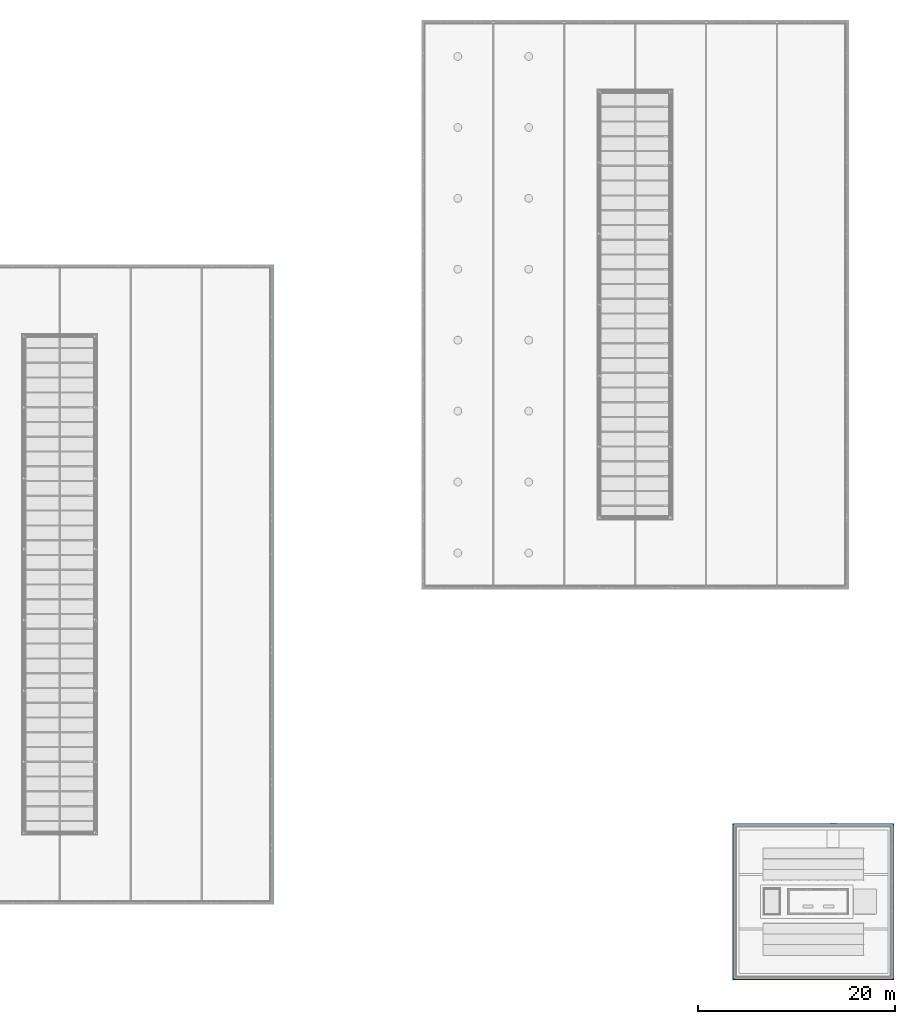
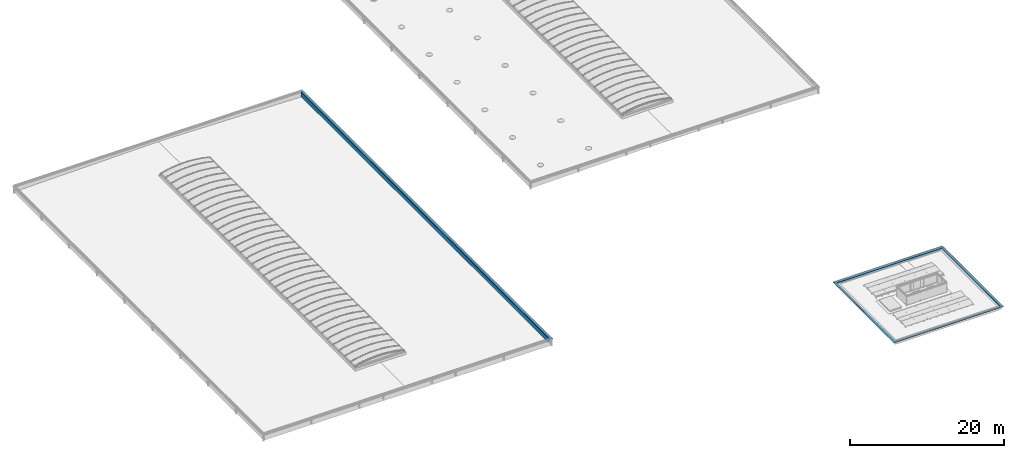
# One storey, part 50 of 81: 5 beams.
"""IFC2X3 building model written with IfcOpenShell, lengths in millimetres."""

import ifcopenshell
import ifcopenshell.guid

model = None  # the IFC model being written
_history = None  # IfcOwnerHistory: only IFC2X3 demands one
_inside = {}  # id of a spatial element -> (the spatial element, [elements in it])
_under = {}  # id of a project, library or spatial element -> (it, [spatial elements below it])
_declared = {}  # id of a project -> (the project, [libraries it declares])
_typed = {}  # id of a type object -> (the type object, [elements of that type])
_made_of = {}  # id of a material, layer set ... -> (it, [elements and type objects made of it])


def new_model(schema):
    """Start an empty IFC model of exactly this schema.

    Asked for "IFC4X3", IfcOpenShell would pick the latest addendum, in which some entities
    have other attributes; the version numbers below select the first issue.
    IFC2X3 requires an IfcOwnerHistory on every rooted entity: one is made here for all.
    """
    global model, _history
    if schema == "IFC4X3":
        model = ifcopenshell.file(schema_version=(4, 3, 0, 0))
    else:
        model = ifcopenshell.file(schema=schema)
    _inside.clear()
    _under.clear()
    _declared.clear()
    _typed.clear()
    _made_of.clear()
    _history = None
    if model.schema == "IFC2X3":
        org = make("IfcOrganization", Name="unknown")
        user = make(
            "IfcPersonAndOrganization",
            ThePerson=make("IfcPerson", FamilyName="unknown"),
            TheOrganization=org,
        )
        app = make(
            "IfcApplication",
            ApplicationDeveloper=org,
            Version="unknown",
            ApplicationFullName="unknown",
            ApplicationIdentifier="unknown",
        )
        _history = make(
            "IfcOwnerHistory",
            OwningUser=user,
            OwningApplication=app,
            ChangeAction="ADDED",
            CreationDate=0,
        )
    return model


def make(cls, **values):
    """One entity of the class cls with the attributes given. An attribute that is None is left unset."""
    return model.create_entity(
        cls, **{name: value for name, value in values.items() if value is not None}
    )


def entity(cls, *values):
    """Any entity or typed value of the class cls, its attributes in the order of the schema. None: left unset."""
    e = model.create_entity(cls)
    for i, value in enumerate(values):
        if value is not None:
            e[i] = value
    return e


def rooted(cls, **values):
    """An entity with a GlobalId (a new one), such as an element, a storey or a relation."""
    return make(cls, GlobalId=ifcopenshell.guid.new(), OwnerHistory=_history, **values)


def si_unit(unit_type, name, prefix=None):
    """IfcSIUnit, for example si_unit("LENGTHUNIT", "METRE", prefix="MILLI")."""
    return make("IfcSIUnit", UnitType=unit_type, Prefix=prefix, Name=name)


def converted_unit(unit_type, name, factor, base, dimensions=None, offset=None):
    """IfcConversionBasedUnit, such as the inch: factor (a typed value) times the base unit."""
    return make(
        "IfcConversionBasedUnit"
        if offset is None
        else "IfcConversionBasedUnitWithOffset",
        ConversionOffset=offset,
        Dimensions=None
        if dimensions is None
        else entity("IfcDimensionalExponents", *dimensions),
        UnitType=unit_type,
        Name=name,
        ConversionFactor=make(
            "IfcMeasureWithUnit", ValueComponent=factor, UnitComponent=base
        ),
    )


def derived_unit(unit_type, elements):
    """IfcDerivedUnit: a product of units, each with its exponent."""
    return make(
        "IfcDerivedUnit",
        Elements=[
            make("IfcDerivedUnitElement", Unit=unit, Exponent=power)
            for unit, power in elements
        ],
        UnitType=unit_type,
    )


def money_unit(currency):
    """IfcMonetaryUnit."""
    return make("IfcMonetaryUnit", Currency=currency)


def assignment(units):
    """IfcUnitAssignment: the units of a project."""
    return None if units is None else make("IfcUnitAssignment", Units=units)


def point(xyz):
    """IfcCartesianPoint."""
    return None if xyz is None else make("IfcCartesianPoint", Coordinates=xyz)


def direction(xyz):
    """IfcDirection."""
    return None if xyz is None else make("IfcDirection", DirectionRatios=xyz)


def frame(location, z_axis=None, x_axis=None):
    """IfcAxis2Placement3D, a coordinate frame: its origin and axes. An axis left out is left unset."""
    return make(
        "IfcAxis2Placement3D",
        Location=point(location),
        Axis=direction(z_axis),
        RefDirection=direction(x_axis),
    )


def origin_with_axes():
    """The frame at (0, 0, 0) with the z axis (0, 0, 1) and the x axis (1, 0, 0) written out."""
    return frame((0.0, 0.0, 0.0), z_axis=(0.0, 0.0, 1.0), x_axis=(1.0, 0.0, 0.0))


def place(relative_to, where):
    """IfcLocalPlacement: puts the frame where relative to a parent placement (None: the world)."""
    return make(
        "IfcLocalPlacement", PlacementRelTo=relative_to, RelativePlacement=where
    )


def context(
    kind, dimensions, precision=None, world=None, true_north=None, identifier=None
):
    """IfcGeometricRepresentationContext, for example the 3D "Model" context."""
    return make(
        "IfcGeometricRepresentationContext",
        ContextIdentifier=identifier,
        ContextType=kind,
        CoordinateSpaceDimension=dimensions,
        Precision=precision,
        WorldCoordinateSystem=world,
        TrueNorth=true_north,
    )


def subcontext(parent, identifier, kind, view, scale=None):
    """IfcGeometricRepresentationSubContext, for example "Body" below "Model"."""
    return make(
        "IfcGeometricRepresentationSubContext",
        ContextIdentifier=identifier,
        ContextType=kind,
        ParentContext=parent,
        TargetScale=scale,
        TargetView=view,
    )


def project(units=None, contexts=None):
    """IfcProject with its units and contexts."""
    return rooted(
        "IfcProject",
        Name="project",
        RepresentationContexts=contexts,
        UnitsInContext=assignment(units),
    )


def spatial(cls, under=None, at=None, **own):
    """A site, building, storey or space (cls), placed at a placement, below another one or the project."""
    s = rooted(cls, ObjectPlacement=at, **own)
    if under is not None:
        _under.setdefault(under.id(), (under, []))[1].append(s)
    return s


def faces_of(points, faces, orient=None, outer=None):
    """IfcFace entities. A face is a list of loops; a loop is a list of indices into points, from 0.

    orient and outer hold one flag for each loop. By default every Orientation is true, the
    first loop of a face is its IfcFaceOuterBound and the others are IfcFaceBound.
    """
    made = []
    for i, loops in enumerate(faces):
        bounds = []
        for j, loop in enumerate(loops):
            is_outer = j == 0 if outer is None else outer[i][j]
            bounds.append(
                make(
                    "IfcFaceOuterBound" if is_outer else "IfcFaceBound",
                    Bound=make("IfcPolyLoop", Polygon=[points[k] for k in loop]),
                    Orientation=True if orient is None else orient[i][j],
                )
            )
        made.append(make("IfcFace", Bounds=bounds))
    return made


def faceted_brep(points, faces, orient=None, outer=None, voids=None):
    """IfcFacetedBrep: a solid bounded by flat faces; with voids (closed shells), ...WithVoids."""
    shared = [point(p) for p in points]
    hull = make("IfcClosedShell", CfsFaces=faces_of(shared, faces, orient, outer))
    if voids is None:
        return make("IfcFacetedBrep", Outer=hull)
    return make(
        "IfcFacetedBrepWithVoids",
        Outer=hull,
        Voids=[
            make(cls, CfsFaces=faces_of(shared, fs, o, b)) for cls, fs, o, b in voids
        ],
    )


def shape(context_of_items, identifier, shape_type, items):
    """IfcShapeRepresentation: the items that make up one representation, for example the "Body"."""
    return make(
        "IfcShapeRepresentation",
        ContextOfItems=context_of_items,
        RepresentationIdentifier=identifier,
        RepresentationType=shape_type,
        Items=items,
    )


def material(Name=None, Category=None):
    """IfcMaterial."""
    return make("IfcMaterial", Name=Name, Category=Category)


def material_list(materials):
    """IfcMaterialList."""
    return make("IfcMaterialList", Materials=materials)


def made_of(thing, what):
    """Note that an element or type object is made of a material, layer set ...; save() writes the relation."""
    if what is not None:
        _made_of.setdefault(what.id(), (what, []))[1].append(thing)
    return thing


def type_object(cls, material=None, **own):
    """A type object (cls), such as IfcWallType, which elements share."""
    return made_of(rooted(cls, **own), material)


def element(
    cls,
    number,
    at=None,
    inside=None,
    cuts=None,
    type_object=None,
    material=None,
    context=None,
    identifier="Body",
    shape_type=None,
    held_by="IfcProductDefinitionShape",
    body=None,
    shapes=None,
    **own,
):
    """One element of the class cls, such as IfcWall. Its Tag is "e" and its number.

    at: its placement. inside: the storey or other place that contains it. cuts: it is an
    opening in that element (IfcRelVoidsElement). A single representation is given by context,
    identifier, shape_type and body (its items); several are given by shapes. held_by: the class
    of the entity that holds the representations. save() writes the other relations.
    """
    e = rooted(cls, Tag="e%d" % number, ObjectPlacement=at, **own)
    if body is not None:
        shapes = [shape(context, identifier, shape_type, body)]
    if shapes is not None:
        e.Representation = make(held_by, Representations=shapes)
    if inside is not None:
        _inside.setdefault(inside.id(), (inside, []))[1].append(e)
    if cuts is not None:
        rooted(
            "IfcRelVoidsElement", RelatingBuildingElement=cuts, RelatedOpeningElement=e
        )
    if type_object is not None:
        _typed.setdefault(type_object.id(), (type_object, []))[1].append(e)
    return made_of(e, material)


def aggregate(whole, parts):
    """IfcRelAggregates: a whole, such as a stair, and the parts it consists of."""
    return rooted("IfcRelAggregates", RelatingObject=whole, RelatedObjects=parts)


def save(model, path):
    """Write the relations noted so far, then the file.

    IfcRelAggregates (storeys below a building ...), IfcRelContainedInSpatialStructure (elements
    in a storey), IfcRelDefinesByType, IfcRelAssociatesMaterial and IfcRelDeclares: one each for
    every whole, place, type object, material and project.
    """
    for whole, parts in _under.values():
        aggregate(whole, parts)
    for where, things in _inside.values():
        rooted(
            "IfcRelContainedInSpatialStructure",
            RelatedElements=things,
            RelatingStructure=where,
        )
    for kind, things in _typed.values():
        rooted("IfcRelDefinesByType", RelatedObjects=things, RelatingType=kind)
    for what, things in _made_of.values():
        rooted("IfcRelAssociatesMaterial", RelatedObjects=things, RelatingMaterial=what)
    for by, libraries in _declared.values():
        rooted("IfcRelDeclares", RelatingContext=by, RelatedDefinitions=libraries)
    model.write(path)


model = new_model("IFC2X3")

# Units and contexts
model_context = context("Model", 3, precision=0.01, world=origin_with_axes(), true_north=direction((0.0, 1.0)))
body_context = subcontext(model_context, "Body", "Model", "MODEL_VIEW")
ifc_project = project(units=[si_unit("LENGTHUNIT", "METRE", prefix="MILLI"), si_unit("AREAUNIT", "SQUARE_METRE"), si_unit("VOLUMEUNIT", "CUBIC_METRE"), converted_unit("PLANEANGLEUNIT", "DEGREE", entity("IfcPlaneAngleMeasure", 0.0174532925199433), si_unit("PLANEANGLEUNIT", "RADIAN"), dimensions=[0, 0, 0, 0, 0, 0, 0]), money_unit("EUR"), converted_unit("TIMEUNIT", "Year", entity("IfcTimeMeasure", 31557600.0), si_unit("TIMEUNIT", "SECOND"), dimensions=[0, 0, 1, 0, 0, 0, 0]), si_unit("MASSUNIT", "GRAM", prefix="KILO"), si_unit("THERMODYNAMICTEMPERATUREUNIT", "DEGREE_CELSIUS"), si_unit("LUMINOUSINTENSITYUNIT", "LUMEN"), si_unit("ENERGYUNIT", "JOULE", prefix="MEGA"), derived_unit("THERMALCONDUCTANCEUNIT", [(si_unit("POWERUNIT", "WATT"), 1), (si_unit("LENGTHUNIT", "METRE"), -1), (si_unit("THERMODYNAMICTEMPERATUREUNIT", "KELVIN"), -1)]), derived_unit("SPECIFICHEATCAPACITYUNIT", [(si_unit("ENERGYUNIT", "JOULE"), 1), (si_unit("MASSUNIT", "GRAM", prefix="KILO"), -1), (si_unit("THERMODYNAMICTEMPERATUREUNIT", "KELVIN"), -1)]), derived_unit("MASSDENSITYUNIT", [(si_unit("MASSUNIT", "GRAM", prefix="KILO"), 1), (si_unit("VOLUMEUNIT", "CUBIC_METRE"), -1)])], contexts=[model_context])

# Site, building, storey
site_placement = place(None, origin_with_axes())
site = spatial("IfcSite", under=ifc_project, at=site_placement, Name="Site", CompositionType="ELEMENT")
building_placement = place(site_placement, origin_with_axes())
building = spatial("IfcBuilding", under=site, at=building_placement, Name="Naam gebouw", CompositionType="ELEMENT")
storey_placement = place(building_placement, frame((0.0, 0.0, 15320.0), z_axis=(0.0, 0.0, 1.0), x_axis=(1.0, 0.0, 0.0)))
storey = spatial("IfcBuildingStorey", under=building, at=storey_placement, Name="01 dak", CompositionType="ELEMENT", Elevation=15320.0)

# Beams
ifc_material_1 = material(Name="Membraan - dampdicht")
ifc_material_2 = material(Name="Metaal - Titanium zink")
ifc_material_list_1 = material_list([ifc_material_1, ifc_material_2])
beam_type_1 = type_object("IfcBeamType", Name="Muurafdekker_210 394 x 841", PredefinedType="BEAM")
beam_1_placement = place(storey_placement, frame((68500.0, 94800.00000000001, 645.0108944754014), z_axis=(0.0, 0.0, 1.0), x_axis=(-1.0, 0.0, 0.0)))
element("IfcBeam", 1, at=beam_1_placement, inside=storey, type_object=beam_type_1, material=ifc_material_list_1, Name="dakkap", ObjectType="BEAM", context=body_context, shape_type="Brep", body=[
    faceted_brep([(252.0000000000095, 64548.0, 7.21089447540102), (252.0000000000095, 64548.0, -806.4411900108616), (252.0000000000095, 252.0000000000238, -806.4411900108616), (252.0000000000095, 252.0000000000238, 7.21089447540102), (254.0000000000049, 64546.00000000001, 7.21089447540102), (254.0000000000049, 64546.00000000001, -806.4411900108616), (254.0000000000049, 254.0000000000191, -806.4411900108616), (254.0000000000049, 254.0000000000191, 7.21089447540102)], [[[0, 1, 2, 3]], [[0, 4, 5, 1]], [[1, 5, 6, 2]], [[3, 2, 6, 7]], [[4, 0, 3, 7]], [[5, 4, 7, 6]]]),
    faceted_brep([(-105.000000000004, -104.9999999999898, 7.30000000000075), (-105.000000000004, 64905.00000000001, 7.30000000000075), (-104.267377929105, 64904.2673779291, 5.531844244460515), (-104.2673779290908, -104.2673779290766, 5.531844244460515), (-105.000000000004, -104.9999999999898, 32.31089447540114), (-105.000000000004, 64905.00000000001, 32.31089447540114), (-104.3675626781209, 64904.36756267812, 33.97288413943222), (-102.7902322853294, 64902.79023228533, 34.79399036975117), (-101.0660589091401, 64901.06605890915, 34.35877458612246), (-79.99022734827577, 64879.99022734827, 19.60131845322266), (-79.70672514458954, 64879.70672514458, 19.5109160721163), (270.2494811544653, 64529.75051884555, 17.21089447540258), (271.6834222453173, 64528.3165777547, 16.75877458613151), (272.5987127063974, 64527.40128729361, 15.56594483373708), (288.3554032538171, 64511.64459674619, -27.72520665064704), (288.271941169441, 64511.72805883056, -29.63680266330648), (286.8612220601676, 64513.13877793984, -30.92948856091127), (275.1150643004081, 64524.88493569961, -35.20474035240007), (274.4310240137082, 64525.5689759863, -33.32535511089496), (286.1771817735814, 64513.82281822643, -29.05010331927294), (286.4593255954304, 64513.54067440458, -28.79156613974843), (286.4760180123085, 64513.5239819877, -28.40924693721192), (270.7193274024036, 64529.2806725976, 14.88190471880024), (270.5376117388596, 64529.46238826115, 15.11952092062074), (270.2527665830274, 64529.74723341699, 15.21087341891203), (-79.70343913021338, 64879.70343913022, 17.51089447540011), (-81.13738022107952, 64881.13738022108, 17.96301436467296), (-102.2132117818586, 64902.21321178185, 32.72047049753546), (-102.5580464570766, 64902.55804645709, 32.80751365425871), (-102.8735125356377, 64902.87351253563, 32.64329240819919), (-103.0000000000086, 64903.00000000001, 32.31089447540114), (-103.0000000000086, 64903.00000000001, 7.30000000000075), (-102.8534839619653, 64902.85348396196, 6.946377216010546), (-102.499803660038, 64902.49980366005, 6.800000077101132), (-50.00000000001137, 64850.00000000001, 6.823967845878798), (-50.00000000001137, 64850.00000000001, -13.1803899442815), (-52.00000000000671, 64852.00000000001, -13.1803899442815), (-52.00000000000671, 64852.00000000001, 4.822224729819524), (-102.4988997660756, 64902.49889976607, 4.800000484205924), (-102.4988997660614, -102.4988997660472, 4.800000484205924), (-52.00000000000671, -51.9999999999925, 4.822224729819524), (-52.00000000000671, -51.9999999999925, -13.1803899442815), (-49.99999999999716, -49.99999999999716, -13.1803899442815), (-49.99999999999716, -49.99999999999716, 6.823967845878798), (-102.499803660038, -102.4998036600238, 6.800000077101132), (-102.853483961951, -102.8534839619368, 6.946377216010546), (-102.9999999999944, -102.9999999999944, 7.30000000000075), (-102.9999999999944, -102.9999999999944, 32.31089447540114), (-102.8735125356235, -102.8735125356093, 32.64329240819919), (-102.5580464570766, -102.5580464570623, 32.80751365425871), (-102.2132117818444, -102.2132117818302, 32.72047049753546), (-81.13738022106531, -81.13738022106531, 17.96301436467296), (-79.70343913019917, -79.70343913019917, 17.51089447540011), (270.2527665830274, 270.2527665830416, 15.21087341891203), (270.5376117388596, 270.5376117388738, 15.11952092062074), (270.7193274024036, 270.7193274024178, 14.88190471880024), (286.4760180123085, 286.4760180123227, -28.40924693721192), (286.4593255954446, 286.4593255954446, -28.79156613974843), (286.1771817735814, 286.1771817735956, -29.05010331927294), (274.4310240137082, 274.4310240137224, -33.32535511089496), (275.1150643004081, 275.1150643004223, -35.20474035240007), (286.8612220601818, 286.8612220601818, -30.92948856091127), (288.2719411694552, 288.2719411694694, -29.63680266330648), (288.3554032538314, 288.3554032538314, -27.72520665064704), (272.5987127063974, 272.5987127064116, 15.56594483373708), (271.6834222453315, 271.6834222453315, 16.75877458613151), (270.2494811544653, 270.2494811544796, 17.21089447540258), (-79.70672514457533, -79.70672514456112, 19.5109160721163), (-79.99022734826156, -79.99022734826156, 19.60131845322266), (-101.0660589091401, -101.0660589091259, 34.35877458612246), (-102.7902322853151, -102.7902322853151, 34.79399036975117), (-104.3675626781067, -104.3675626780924, 33.97288413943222)], [[[0, 1, 2, 3]], [[4, 5, 1, 0]], [[2, 1, 5, 6, 7, 8, 9, 10, 11, 12, 13, 14, 15, 16, 17, 18, 19, 20, 21, 22, 23, 24, 25, 26, 27, 28, 29, 30, 31, 32, 33, 34, 35, 36, 37, 38]], [[3, 2, 38, 39]], [[4, 0, 3, 39, 40, 41, 42, 43, 44, 45, 46, 47, 48, 49, 50, 51, 52, 53, 54, 55, 56, 57, 58, 59, 60, 61, 62, 63, 64, 65, 66, 67, 68, 69, 70, 71]], [[71, 6, 5, 4]], [[70, 7, 6, 71]], [[69, 8, 7, 70]], [[68, 9, 8, 69]], [[67, 10, 9, 68]], [[66, 11, 10, 67]], [[65, 12, 11, 66]], [[64, 13, 12, 65]], [[63, 14, 13, 64]], [[62, 15, 14, 63]], [[61, 16, 15, 62]], [[60, 17, 16, 61]], [[59, 18, 17, 60]], [[58, 19, 18, 59]], [[57, 20, 19, 58]], [[56, 21, 20, 57]], [[55, 22, 21, 56]], [[54, 23, 22, 55]], [[53, 24, 23, 54]], [[52, 25, 24, 53]], [[51, 26, 25, 52]], [[50, 27, 26, 51]], [[49, 28, 27, 50]], [[48, 29, 28, 49]], [[47, 30, 29, 48]], [[46, 31, 30, 47]], [[45, 32, 31, 46]], [[44, 33, 32, 45]], [[43, 34, 33, 44]], [[42, 35, 34, 43]], [[41, 36, 35, 42]], [[40, 37, 36, 41]], [[39, 38, 37, 40]]]),
])
ifc_material_list_2 = material_list([ifc_material_1, ifc_material_2, ifc_material_2, ifc_material_2, ifc_material_2, ifc_material_2, ifc_material_2])
beam_type_2 = type_object("IfcBeamType", Name="dakrand personeelsgebouw 370 x 272", PredefinedType="BEAM")
beam_2_placement = place(storey_placement, frame((115200.000024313, 22250.00000000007, -15320.00000000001), z_axis=(0.0, 0.0, 1.0), x_axis=(1.0, 0.0, 0.0)))
element("IfcBeam", 2, at=beam_2_placement, inside=storey, type_object=beam_type_2, material=ifc_material_list_2, Name="dakkap", ObjectType="BEAM", context=body_context, shape_type="Brep", body=[
    faceted_brep([(351.999976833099, 15547.99999885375, 3438.411640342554), (354.9999768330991, 15544.99999885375, 3438.411640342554), (354.9999768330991, 354.9999768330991, 3438.411640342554), (351.999976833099, 351.999976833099, 3438.411640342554), (351.999976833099, 15547.99999885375, 3638.411640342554), (354.9999768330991, 15544.99999885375, 3638.411640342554), (354.9999768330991, 354.9999768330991, 3638.411640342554), (351.999976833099, 351.999976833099, 3638.411640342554)], [[[0, 1, 2, 3]], [[0, 4, 5, 1]], [[1, 5, 6, 2]], [[3, 2, 6, 7]], [[4, 0, 3, 7]], [[5, 4, 7, 6]]]),
    faceted_brep([(49.99999999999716, 15849.99997568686, 3703.25411601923), (49.49999999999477, 15850.49997568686, 3702.817044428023), (49.49999999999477, 49.49999999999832, 3702.817044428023), (49.99999999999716, 49.99999999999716, 3703.25411601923), (49.99999999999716, 15849.99997568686, 3688.118210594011), (49.50099167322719, 15850.49898401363, 3687.681005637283), (49.50099167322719, 49.50099167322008, 3687.681005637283), (49.99999999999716, 49.99999999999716, 3688.118210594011)], [[[0, 1, 2, 3]], [[0, 4, 5, 1]], [[1, 5, 6, 2]], [[3, 2, 6, 7]], [[4, 0, 3, 7]], [[5, 4, 7, 6]]]),
    faceted_brep([(0.0, 15899.99997568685, 3710.000000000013), (0.5000000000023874, 15899.49997568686, 3709.428010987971), (0.5000000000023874, 0.4999999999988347, 3709.428010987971), (0.0, 0.0, 3710.000000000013), (49.99999999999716, 15849.99997568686, 3703.254116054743), (49.49999999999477, 15850.49997568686, 3702.817044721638), (49.49999999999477, 49.49999999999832, 3702.817044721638), (49.99999999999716, 49.99999999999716, 3703.254116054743)], [[[0, 1, 2, 3]], [[0, 4, 5, 1]], [[1, 5, 6, 2]], [[3, 2, 6, 7]], [[4, 0, 3, 7]], [[5, 4, 7, 6]]]),
    faceted_brep([(49.99999999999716, 15849.99997568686, 3688.118210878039), (49.50099126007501, 15850.49898442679, 3687.681005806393), (49.50099126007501, 49.50099126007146, 3687.681005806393), (49.99999999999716, 49.99999999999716, 3688.118210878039), (116.1214977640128, 15783.87847792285, 3679.197251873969), (116.0546446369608, 15783.9453310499, 3678.701741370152), (116.0546446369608, 116.0546446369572, 3678.701741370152), (116.1214977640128, 116.1214977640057, 3679.197251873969)], [[[0, 1, 2, 3]], [[0, 4, 5, 1]], [[1, 5, 6, 2]], [[3, 2, 6, 7]], [[4, 0, 3, 7]], [[5, 4, 7, 6]]]),
    faceted_brep([(59.1643153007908, 15840.83566038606, 3681.331951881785), (369.4999768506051, 15530.49999883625, 3639.462186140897), (369.4999768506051, 369.4999768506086, 3639.462186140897), (59.1643153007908, 59.16431530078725, 3681.331951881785), (59.23116631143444, 15840.76880937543, 3681.827463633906), (369.9999768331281, 15529.99999885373, 3639.899253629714), (369.4999768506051, 15530.49999883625, 3639.899253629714), (369.4999768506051, 369.4999768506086, 3639.899253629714), (369.9999768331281, 369.9999768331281, 3639.899253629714), (59.23116631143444, 59.23116631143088, 3681.827463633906)], [[[0, 1, 2, 3]], [[0, 4, 5, 6, 1]], [[1, 6, 7, 2]], [[3, 2, 7, 8, 9]], [[4, 0, 3, 9]], [[5, 4, 9, 8]], [[6, 5, 8, 7]]]),
    faceted_brep([(360.0229681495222, 15539.97700753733, 3615.186649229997), (359.6118918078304, 15540.38808387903, 3614.902015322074), (359.6118918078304, 359.6118918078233, 3614.902015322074), (360.0229681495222, 360.0229681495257, 3615.186649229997), (369.4999768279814, 15530.49999885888, 3601.499690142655), (369.4999768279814, 15530.49999885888, 3600.62136896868), (369.4999768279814, 369.4999768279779, 3600.62136896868), (369.4999768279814, 369.4999768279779, 3601.499690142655)], [[[0, 1, 2, 3]], [[0, 4, 5, 1]], [[1, 5, 6, 2]], [[3, 2, 6, 7]], [[4, 0, 3, 7]], [[5, 4, 7, 6]]]),
    faceted_brep([(369.9999768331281, 15529.99999885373, 3599.899255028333), (369.9999768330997, 15529.99999885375, 3639.899255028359), (369.9999768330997, 369.9999768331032, 3639.899255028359), (369.9999768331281, 369.9999768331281, 3599.899255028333), (369.4999768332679, 15530.49999885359, 3600.621368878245), (369.4999768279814, 15530.49999885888, 3601.499690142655), (369.4999768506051, 15530.49999883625, 3639.462186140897), (369.4999768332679, 15530.49999885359, 3639.899255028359), (369.4999768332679, 369.4999768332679, 3639.899255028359), (369.4999768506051, 369.4999768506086, 3639.462186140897), (369.4999768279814, 369.4999768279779, 3601.499690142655), (369.4999768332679, 369.4999768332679, 3600.621368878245)], [[[0, 1, 2, 3]], [[0, 4, 5, 6, 7, 1]], [[1, 7, 8, 2]], [[3, 2, 8, 9, 10, 11]], [[4, 0, 3, 11]], [[5, 4, 11, 10]], [[6, 5, 10, 9]], [[7, 6, 9, 8]]]),
])
beam_3_placement = place(storey_placement, frame((131599.9999756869, 22250.00000000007, -15320.00000000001), z_axis=(0.0, 0.0, 1.0), x_axis=(0.0, 1.0, 0.0)))
element("IfcBeam", 3, at=beam_3_placement, inside=storey, type_object=beam_type_2, material=ifc_material_list_2, Name="dakkap", ObjectType="BEAM", context=body_context, shape_type="Brep", body=[
    faceted_brep([(351.999976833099, 16047.99997454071, 3438.411640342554), (354.9999768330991, 16044.99997454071, 3438.411640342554), (354.9999768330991, 354.9999768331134, 3438.411640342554), (351.999976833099, 351.999976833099, 3438.411640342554), (351.999976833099, 16047.99997454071, 3638.411640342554), (354.9999768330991, 16044.99997454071, 3638.411640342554), (354.9999768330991, 354.9999768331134, 3638.411640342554), (351.999976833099, 351.999976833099, 3638.411640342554)], [[[0, 1, 2, 3]], [[0, 4, 5, 1]], [[1, 5, 6, 2]], [[3, 2, 6, 7]], [[4, 0, 3, 7]], [[5, 4, 7, 6]]]),
    faceted_brep([(49.99999999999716, 16349.9999513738, 3703.25411601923), (49.49999999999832, 16350.49995137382, 3702.817044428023), (49.49999999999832, 49.49999999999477, 3702.817044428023), (49.99999999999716, 49.99999999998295, 3703.25411601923), (49.99999999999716, 16349.9999513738, 3688.118210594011), (49.50099167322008, 16350.49895970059, 3687.681005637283), (49.50099167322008, 49.50099167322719, 3687.681005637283), (49.99999999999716, 49.99999999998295, 3688.118210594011)], [[[0, 1, 2, 3]], [[0, 4, 5, 1]], [[1, 5, 6, 2]], [[3, 2, 6, 7]], [[4, 0, 3, 7]], [[5, 4, 7, 6]]]),
    faceted_brep([(0.0, 16399.99995137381, 3710.000000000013), (0.5000000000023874, 16399.49995137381, 3709.428010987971), (0.4999999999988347, 0.4999999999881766, 3709.428010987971), (0.0, 0.0, 3710.000000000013), (49.99999999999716, 16349.9999513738, 3703.254116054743), (49.49999999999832, 16350.49995137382, 3702.817044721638), (49.49999999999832, 49.49999999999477, 3702.817044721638), (49.99999999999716, 49.99999999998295, 3703.254116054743)], [[[0, 1, 2, 3]], [[0, 4, 5, 1]], [[1, 5, 6, 2]], [[3, 2, 6, 7]], [[4, 0, 3, 7]], [[5, 4, 7, 6]]]),
    faceted_brep([(49.99999999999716, 16349.9999513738, 3688.118210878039), (49.50099126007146, 16350.49896011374, 3687.681005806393), (49.50099126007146, 49.5009912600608, 3687.681005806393), (49.99999999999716, 49.99999999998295, 3688.118210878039), (116.1214977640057, 16283.8784536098, 3679.197251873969), (116.0546446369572, 16283.94530673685, 3678.701741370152), (116.0546446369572, 116.0546446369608, 3678.701741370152), (116.1214977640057, 116.1214977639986, 3679.197251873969)], [[[0, 1, 2, 3]], [[0, 4, 5, 1]], [[1, 5, 6, 2]], [[3, 2, 6, 7]], [[4, 0, 3, 7]], [[5, 4, 7, 6]]]),
    faceted_brep([(59.1643153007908, 16340.83563607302, 3681.331951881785), (369.4999768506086, 16030.49997452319, 3639.462186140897), (369.4999768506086, 369.4999768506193, 3639.462186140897), (59.16431530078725, 59.1643153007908, 3681.331951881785), (59.23116631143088, 16340.76878506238, 3681.827463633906), (369.9999768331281, 16029.99997454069, 3639.899253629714), (369.4999768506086, 16030.49997452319, 3639.899253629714), (369.4999768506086, 369.4999768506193, 3639.899253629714), (369.9999768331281, 369.9999768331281, 3639.899253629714), (59.23116631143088, 59.23116631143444, 3681.827463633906)], [[[0, 1, 2, 3]], [[0, 4, 5, 6, 1]], [[1, 6, 7, 2]], [[3, 2, 7, 8, 9]], [[4, 0, 3, 9]], [[5, 4, 9, 8]], [[6, 5, 8, 7]]]),
    faceted_brep([(360.0229681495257, 16039.97698322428, 3615.186649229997), (359.6118918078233, 16040.38805956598, 3614.902015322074), (359.6118918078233, 359.6118918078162, 3614.902015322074), (360.0229681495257, 360.0229681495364, 3615.186649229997), (369.4999768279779, 16030.49997454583, 3601.499690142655), (369.4999768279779, 16030.49997454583, 3600.62136896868), (369.4999768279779, 369.4999768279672, 3600.62136896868), (369.4999768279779, 369.4999768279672, 3601.499690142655)], [[[0, 1, 2, 3]], [[0, 4, 5, 1]], [[1, 5, 6, 2]], [[3, 2, 6, 7]], [[4, 0, 3, 7]], [[5, 4, 7, 6]]]),
    faceted_brep([(369.9999768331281, 16029.99997454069, 3599.899255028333), (369.9999768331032, 16029.9999745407, 3639.899255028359), (369.9999768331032, 369.9999768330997, 3639.899255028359), (369.9999768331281, 369.9999768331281, 3599.899255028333), (369.4999768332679, 16030.49997454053, 3600.621368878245), (369.4999768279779, 16030.49997454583, 3601.499690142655), (369.4999768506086, 16030.49997452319, 3639.462186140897), (369.4999768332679, 16030.49997454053, 3639.899255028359), (369.4999768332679, 369.4999768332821, 3639.899255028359), (369.4999768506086, 369.4999768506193, 3639.462186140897), (369.4999768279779, 369.4999768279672, 3601.499690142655), (369.4999768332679, 369.4999768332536, 3600.621368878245)], [[[0, 1, 2, 3]], [[0, 4, 5, 6, 7, 1]], [[1, 7, 8, 2]], [[3, 2, 8, 9, 10, 11]], [[4, 0, 3, 11]], [[5, 4, 11, 10]], [[6, 5, 10, 9]], [[7, 6, 9, 8]]]),
])
beam_4_placement = place(storey_placement, frame((131599.9999756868, 38149.99997568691, -15320.00000000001), z_axis=(0.0, 0.0, 1.0), x_axis=(0.0, 1.0, 0.0)))
element("IfcBeam", 4, at=beam_4_placement, inside=storey, type_object=beam_type_2, material=ifc_material_list_2, Name="dakkap", ObjectType="BEAM", context=body_context, shape_type="Brep", body=[
    faceted_brep([(-351.999976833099, 16047.99997454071, 3638.411640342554), (-354.9999768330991, 16044.99997454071, 3638.411640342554), (-354.9999768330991, 354.9999768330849, 3638.411640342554), (-351.999976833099, 351.999976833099, 3638.411640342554), (-351.999976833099, 16047.99997454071, 3438.411640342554), (-354.9999768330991, 16044.99997454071, 3438.411640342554), (-354.9999768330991, 354.9999768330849, 3438.411640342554), (-351.999976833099, 351.999976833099, 3438.411640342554)], [[[0, 1, 2, 3]], [[0, 4, 5, 1]], [[1, 5, 6, 2]], [[3, 2, 6, 7]], [[4, 0, 3, 7]], [[5, 4, 7, 6]]]),
    faceted_brep([(-49.99999999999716, 16349.9999513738, 3688.118210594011), (-49.50099167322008, 16350.49895970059, 3687.681005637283), (-49.50099167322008, 49.50099167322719, 3687.681005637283), (-49.99999999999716, 49.99999999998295, 3688.118210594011), (-49.99999999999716, 16349.9999513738, 3703.25411601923), (-49.49999999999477, 16350.49995137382, 3702.817044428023), (-49.49999999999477, 49.49999999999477, 3702.817044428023), (-49.99999999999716, 49.99999999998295, 3703.25411601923)], [[[0, 1, 2, 3]], [[0, 4, 5, 1]], [[1, 5, 6, 2]], [[3, 2, 6, 7]], [[4, 0, 3, 7]], [[5, 4, 7, 6]]]),
    faceted_brep([(-49.99999999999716, 16349.9999513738, 3703.254116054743), (-49.49999999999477, 16350.49995137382, 3702.817044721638), (-49.49999999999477, 49.49999999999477, 3702.817044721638), (-49.99999999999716, 49.99999999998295, 3703.254116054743), (0.0, 16399.99995137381, 3710.000000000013), (-0.499999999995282, 16399.49995137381, 3709.428010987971), (-0.5000000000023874, 0.4999999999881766, 3709.428010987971), (0.0, 0.0, 3710.000000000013)], [[[0, 1, 2, 3]], [[0, 4, 5, 1]], [[1, 5, 6, 2]], [[3, 2, 6, 7]], [[4, 0, 3, 7]], [[5, 4, 7, 6]]]),
    faceted_brep([(-116.1214977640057, 16283.8784536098, 3679.197251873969), (-116.0546446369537, 16283.94530673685, 3678.701741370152), (-116.0546446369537, 116.0546446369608, 3678.701741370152), (-116.1214977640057, 116.1214977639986, 3679.197251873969), (-49.99999999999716, 16349.9999513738, 3688.118210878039), (-49.50099126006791, 16350.49896011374, 3687.681005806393), (-49.50099126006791, 49.5009912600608, 3687.681005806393), (-49.99999999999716, 49.99999999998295, 3688.118210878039)], [[[0, 1, 2, 3]], [[0, 4, 5, 1]], [[1, 5, 6, 2]], [[3, 2, 6, 7]], [[4, 0, 3, 7]], [[5, 4, 7, 6]]]),
    faceted_brep([(-59.23116631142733, 16340.76878506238, 3681.827463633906), (-369.9999768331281, 16029.99997454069, 3639.899253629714), (-369.9999768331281, 369.9999768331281, 3639.899253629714), (-59.23116631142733, 59.23116631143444, 3681.827463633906), (-59.1643153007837, 16340.83563607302, 3681.331951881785), (-369.4999768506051, 16030.49997452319, 3639.462186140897), (-369.4999768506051, 16030.49997452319, 3639.899253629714), (-369.4999768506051, 369.4999768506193, 3639.899253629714), (-369.4999768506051, 369.4999768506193, 3639.462186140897), (-59.1643153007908, 59.1643153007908, 3681.331951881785)], [[[0, 1, 2, 3]], [[0, 4, 5, 6, 1]], [[1, 6, 7, 2]], [[3, 2, 7, 8, 9]], [[4, 0, 3, 9]], [[5, 4, 9, 8]], [[6, 5, 8, 7]]]),
    faceted_brep([(-369.4999768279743, 16030.49997454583, 3601.499690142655), (-369.4999768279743, 16030.49997454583, 3600.62136896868), (-369.4999768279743, 369.4999768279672, 3600.62136896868), (-369.4999768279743, 369.4999768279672, 3601.499690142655), (-360.0229681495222, 16039.97698322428, 3615.186649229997), (-359.6118918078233, 16040.38805956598, 3614.902015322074), (-359.6118918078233, 359.6118918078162, 3614.902015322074), (-360.0229681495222, 360.0229681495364, 3615.186649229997)], [[[0, 1, 2, 3]], [[0, 4, 5, 1]], [[1, 5, 6, 2]], [[3, 2, 6, 7]], [[4, 0, 3, 7]], [[5, 4, 7, 6]]]),
    faceted_brep([(-369.4999768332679, 16030.49997454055, 3600.621368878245), (-369.4999768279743, 16030.49997454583, 3601.499690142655), (-369.4999768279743, 369.4999768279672, 3601.499690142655), (-369.4999768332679, 369.4999768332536, 3600.621368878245), (-369.9999768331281, 16029.99997454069, 3599.899255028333), (-369.9999768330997, 16029.99997454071, 3639.899255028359), (-369.4999768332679, 16030.49997454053, 3639.899255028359), (-369.4999768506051, 16030.49997452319, 3639.462186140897), (-369.4999768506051, 369.4999768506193, 3639.462186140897), (-369.4999768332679, 369.4999768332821, 3639.899255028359), (-369.9999768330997, 369.9999768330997, 3639.899255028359), (-369.9999768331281, 369.9999768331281, 3599.899255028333)], [[[0, 1, 2, 3]], [[0, 4, 5, 6, 7, 1]], [[1, 7, 8, 2]], [[3, 2, 8, 9, 10, 11]], [[4, 0, 3, 11]], [[5, 4, 11, 10]], [[6, 5, 10, 9]], [[7, 6, 9, 8]]]),
])
beam_5_placement = place(storey_placement, frame((131599.9999756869, 22250.00000000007, -15320.00000000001), z_axis=(0.0, 0.0, 1.0), x_axis=(1.0, 0.0, 0.0)))
element("IfcBeam", 5, at=beam_5_placement, inside=storey, type_object=beam_type_2, material=ifc_material_list_2, Name="dakkap", ObjectType="BEAM", context=body_context, shape_type="Brep", body=[
    faceted_brep([(-351.999976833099, 15547.99999885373, 3638.411640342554), (-354.9999768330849, 15544.99999885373, 3638.411640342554), (-354.9999768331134, 354.9999768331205, 3638.411640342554), (-351.999976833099, 351.9999768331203, 3638.411640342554), (-351.999976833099, 15547.99999885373, 3438.411640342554), (-354.9999768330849, 15544.99999885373, 3438.411640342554), (-354.9999768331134, 354.9999768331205, 3438.411640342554), (-351.999976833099, 351.9999768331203, 3438.411640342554)], [[[0, 1, 2, 3]], [[0, 4, 5, 1]], [[1, 5, 6, 2]], [[3, 2, 6, 7]], [[4, 0, 3, 7]], [[5, 4, 7, 6]]]),
    faceted_brep([(-49.99999999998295, 15849.99997568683, 3688.118210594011), (-49.50099167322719, 15850.49898401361, 3687.681005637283), (-49.50099167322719, 49.5009916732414, 3687.681005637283), (-49.99999999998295, 50.00000000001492, 3688.118210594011), (-49.99999999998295, 15849.99997568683, 3703.25411601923), (-49.49999999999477, 15850.49997568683, 3702.817044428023), (-49.49999999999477, 49.50000000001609, 3702.817044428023), (-49.99999999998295, 50.00000000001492, 3703.25411601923)], [[[0, 1, 2, 3]], [[0, 4, 5, 1]], [[1, 5, 6, 2]], [[3, 2, 6, 7]], [[4, 0, 3, 7]], [[5, 4, 7, 6]]]),
    faceted_brep([(-49.99999999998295, 15849.99997568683, 3703.254116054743), (-49.49999999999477, 15850.49997568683, 3702.817044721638), (-49.49999999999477, 49.50000000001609, 3702.817044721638), (-49.99999999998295, 50.00000000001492, 3703.254116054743), (0.0, 15899.99997568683, 3710.000000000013), (-0.4999999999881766, 15899.49997568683, 3709.428010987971), (-0.4999999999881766, 0.500000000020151, 3709.428010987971), (0.0, 0.0, 3710.000000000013)], [[[0, 1, 2, 3]], [[0, 4, 5, 1]], [[1, 5, 6, 2]], [[3, 2, 6, 7]], [[4, 0, 3, 7]], [[5, 4, 7, 6]]]),
    faceted_brep([(-116.1214977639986, 15783.87847792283, 3679.197251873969), (-116.0546446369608, 15783.94533104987, 3678.701741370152), (-116.0546446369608, 116.0546446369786, 3678.701741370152), (-116.1214977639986, 116.121497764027, 3679.197251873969), (-49.99999999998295, 15849.99997568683, 3688.118210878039), (-49.5009912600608, 15850.49898442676, 3687.681005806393), (-49.5009912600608, 49.50099126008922, 3687.681005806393), (-49.99999999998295, 50.00000000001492, 3688.118210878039)], [[[0, 1, 2, 3]], [[0, 4, 5, 1]], [[1, 5, 6, 2]], [[3, 2, 6, 7]], [[4, 0, 3, 7]], [[5, 4, 7, 6]]]),
    faceted_brep([(-59.23116631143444, 15840.7688093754, 3681.827463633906), (-369.9999768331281, 15529.9999988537, 3639.899253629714), (-369.9999768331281, 369.9999768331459, 3639.899253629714), (-59.23116631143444, 59.23116631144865, 3681.827463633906), (-59.1643153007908, 15840.83566038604, 3681.331951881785), (-369.4999768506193, 15530.49999883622, 3639.462186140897), (-369.4999768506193, 15530.49999883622, 3639.899253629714), (-369.4999768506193, 369.49997685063, 3639.899253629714), (-369.4999768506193, 369.49997685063, 3639.462186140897), (-59.1643153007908, 59.16431530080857, 3681.331951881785)], [[[0, 1, 2, 3]], [[0, 4, 5, 6, 1]], [[1, 6, 7, 2]], [[3, 2, 7, 8, 9]], [[4, 0, 3, 9]], [[5, 4, 9, 8]], [[6, 5, 8, 7]]]),
    faceted_brep([(-369.4999768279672, 15530.49999885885, 3601.499690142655), (-369.4999768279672, 15530.49999885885, 3600.62136896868), (-369.4999768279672, 369.4999768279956, 3600.62136896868), (-369.4999768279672, 369.4999768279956, 3601.499690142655), (-360.0229681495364, 15539.9770075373, 3615.186649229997), (-359.6118918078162, 15540.38808387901, 3614.902015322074), (-359.6118918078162, 359.6118918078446, 3614.902015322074), (-360.0229681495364, 360.0229681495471, 3615.186649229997)], [[[0, 1, 2, 3]], [[0, 4, 5, 1]], [[1, 5, 6, 2]], [[3, 2, 6, 7]], [[4, 0, 3, 7]], [[5, 4, 7, 6]]]),
    faceted_brep([(-369.4999768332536, 15530.49999885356, 3600.621368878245), (-369.4999768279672, 15530.49999885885, 3601.499690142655), (-369.4999768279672, 369.4999768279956, 3601.499690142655), (-369.4999768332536, 369.4999768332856, 3600.621368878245), (-369.9999768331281, 15529.9999988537, 3599.899255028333), (-369.9999768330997, 15529.99999885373, 3639.899255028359), (-369.4999768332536, 15530.49999885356, 3639.899255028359), (-369.4999768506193, 15530.49999883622, 3639.462186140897), (-369.4999768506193, 369.49997685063, 3639.462186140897), (-369.4999768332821, 369.4999768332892, 3639.899255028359), (-369.9999768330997, 369.9999768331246, 3639.899255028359), (-369.9999768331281, 369.9999768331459, 3599.899255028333)], [[[0, 1, 2, 3]], [[0, 4, 5, 6, 7, 1]], [[1, 7, 8, 2]], [[3, 2, 8, 9, 10, 11]], [[4, 0, 3, 11]], [[5, 4, 11, 10]], [[6, 5, 10, 9]], [[7, 6, 9, 8]]]),
])

save(model, "model.ifc")
